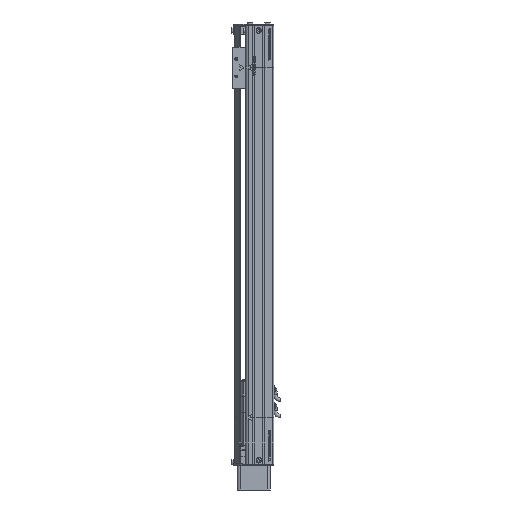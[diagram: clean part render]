
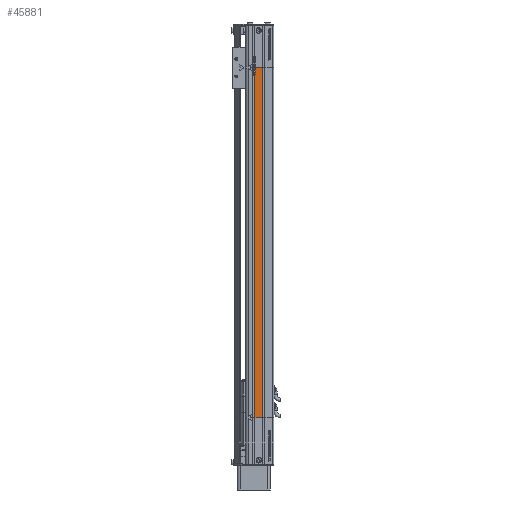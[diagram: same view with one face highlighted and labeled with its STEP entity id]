
A CAD part, left-side view. The second image highlights one B-rep face of the part: STEP entity #45881.
In plain terms, the highlighted planar face has unit normal (-1, 0, 0).
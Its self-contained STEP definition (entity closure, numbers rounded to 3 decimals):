
#9470 = VERTEX_POINT ( 'NONE', #145050 ) ;
#10011 = VERTEX_POINT ( 'NONE', #133312 ) ;
#22908 = EDGE_CURVE ( 'NONE', #9470, #10011, #135662, .T. ) ;
#45528 = ORIENTED_EDGE ( 'NONE', *, *, #45635, .T. ) ;
#45531 = ORIENTED_EDGE ( 'NONE', *, *, #144779, .F. ) ;
#45635 = EDGE_CURVE ( 'NONE', #144699, #9470, #162257, .T. ) ;
#45636 = EDGE_CURVE ( 'NONE', #145087, #10011, #162247, .T. ) ;
#45748 = ORIENTED_EDGE ( 'NONE', *, *, #22908, .T. ) ;
#45761 = EDGE_LOOP ( 'NONE', ( #45748, #45879, #45531, #45528 ) ) ;
#45879 = ORIENTED_EDGE ( 'NONE', *, *, #45636, .F. ) ;
#45881 = ADVANCED_FACE ( 'NONE', ( #163276 ), #163269, .F. ) ;
#105727 = CARTESIAN_POINT ( 'NONE',  ( -35., -2.25, 600. ) ) ;
#105927 = DIRECTION ( 'NONE',  ( 0., -1., 0. ) ) ;
#105928 = VECTOR ( 'NONE', #105927, 1000. ) ;
#105931 = CARTESIAN_POINT ( 'NONE',  ( -35., -2.25, 600. ) ) ;
#105946 = LINE ( 'NONE', #105931, #105928 ) ;
#106360 = CARTESIAN_POINT ( 'NONE',  ( -35., -15.75, 600. ) ) ;
#133312 = CARTESIAN_POINT ( 'NONE',  ( -35., -15.75, 0. ) ) ;
#135611 = DIRECTION ( 'NONE',  ( 0., -1., 0. ) ) ;
#135613 = VECTOR ( 'NONE', #135611, 1000. ) ;
#135615 = CARTESIAN_POINT ( 'NONE',  ( -35., -2.25, 0. ) ) ;
#135662 = LINE ( 'NONE', #135615, #135613 ) ;
#144699 = VERTEX_POINT ( 'NONE', #105727 ) ;
#144779 = EDGE_CURVE ( 'NONE', #144699, #145087, #105946, .T. ) ;
#145050 = CARTESIAN_POINT ( 'NONE',  ( -35., -2.25, 0. ) ) ;
#145087 = VERTEX_POINT ( 'NONE', #106360 ) ;
#162240 = DIRECTION ( 'NONE',  ( 0., 0., -1. ) ) ;
#162241 = VECTOR ( 'NONE', #162240, 1000. ) ;
#162243 = CARTESIAN_POINT ( 'NONE',  ( -35., -15.75, 600. ) ) ;
#162247 = LINE ( 'NONE', #162243, #162241 ) ;
#162252 = DIRECTION ( 'NONE',  ( 0., 0., -1. ) ) ;
#162253 = VECTOR ( 'NONE', #162252, 1000. ) ;
#162256 = CARTESIAN_POINT ( 'NONE',  ( -35., -2.25, 600. ) ) ;
#162257 = LINE ( 'NONE', #162256, #162253 ) ;
#163269 = PLANE ( 'NONE',  #163657 ) ;
#163276 = FACE_OUTER_BOUND ( 'NONE', #45761, .T. ) ;
#163465 = DIRECTION ( 'NONE',  ( 0., 1., 0. ) ) ;
#163467 = DIRECTION ( 'NONE',  ( 1., 0., 0. ) ) ;
#163469 = CARTESIAN_POINT ( 'NONE',  ( -35., -2.25, 600. ) ) ;
#163657 = AXIS2_PLACEMENT_3D ( 'NONE', #163469, #163467, #163465 ) ;
